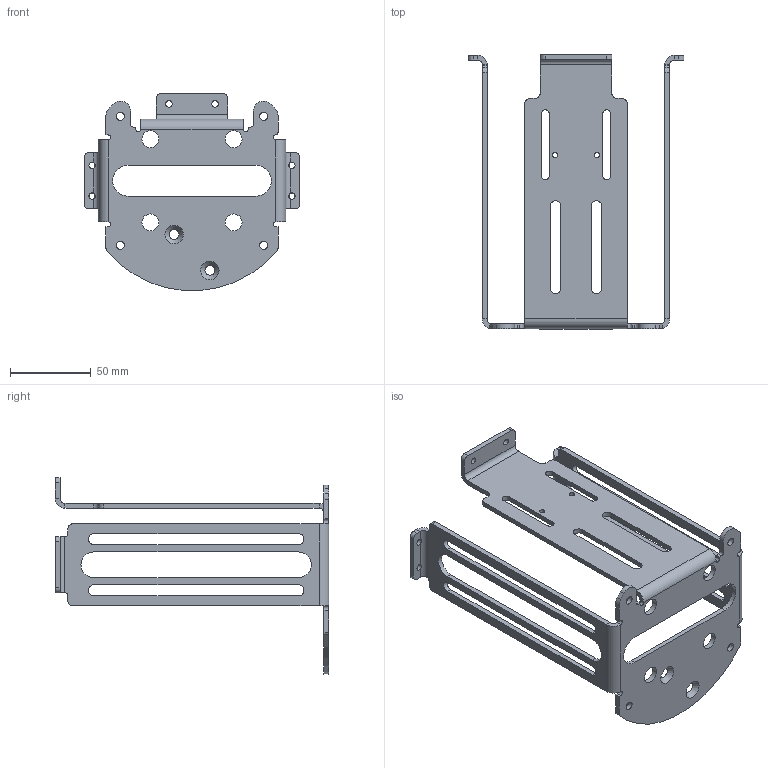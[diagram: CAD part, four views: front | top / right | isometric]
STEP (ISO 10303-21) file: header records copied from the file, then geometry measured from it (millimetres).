
FILE_DESCRIPTION(/* description */ ('CHASSIS, BUOYANCY ENGINE '),/* implementation_level */ '2;1');
FILE_NAME(/* name */ 'D:\MSL_Vault\Project_Library\Barreleye\Sea Fligt Robotics\Buoyancy Engine\STEP\BD-PRT-0297-0000_RevB.stp',/* time_stamp */ '2020-10-09T14:53:29-04:00',/* author */ ('Jeremy Paulus'),/* organization */ (''),/* preprocessor_version */ 'ST-DEVELOPER v15.2',/* originating_system */ 'Autodesk Inventor 2014',/* authorisation */ '');
FILE_SCHEMA (('AUTOMOTIVE_DESIGN { 1 0 10303 214 3 1 1 }'));
Length unit declared in the file: inch
Products named in the file (1): BD-PRT-0297-0000
Bounding box: 133.92 x 169.74 x 122.14 mm (x, y, z)
Volume: 82471.4 mm3; surface area: 66994.8 mm2
Topology: 1 solids, 1 shells, 182 faces, 502 edges, 314 vertices
Faces by surface type: plane 89, cylinder 87, cone 6
Full cylindrical faces by diameter (mm): 3.277 x2, 3.962 x6, 5.105 x4, 10.477 x4
Entity records: 5914 total; most frequent: CARTESIAN_POINT 1101, DIRECTION 1022, ORIENTED_EDGE 964, EDGE_CURVE 482, AXIS2_PLACEMENT_3D 365, VERTEX_POINT 312, LINE 292, VECTOR 292
